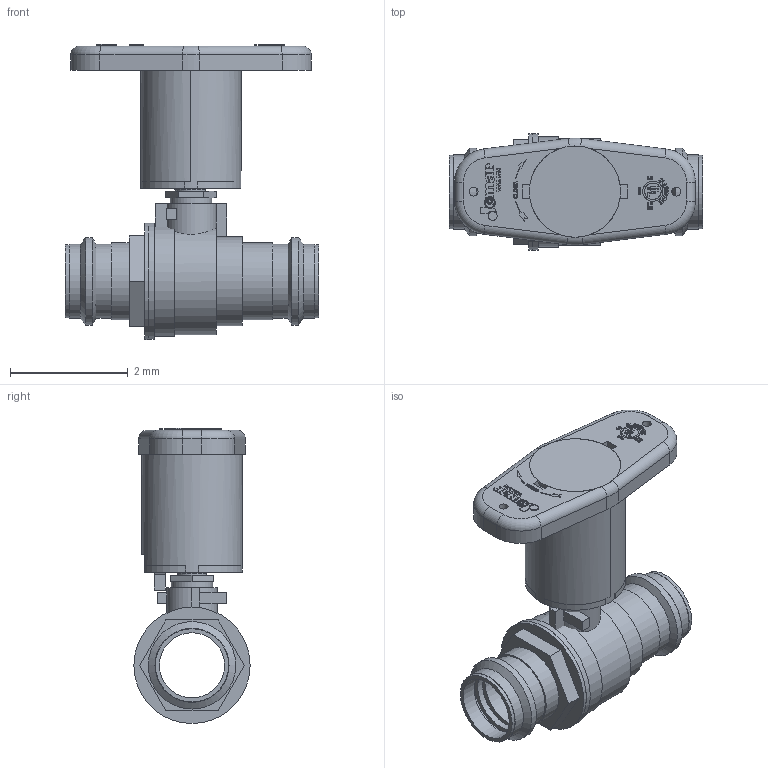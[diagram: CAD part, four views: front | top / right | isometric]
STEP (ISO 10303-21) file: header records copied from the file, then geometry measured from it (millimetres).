
FILE_DESCRIPTION(('Open CASCADE Model'),'2;1');
FILE_NAME('Open CASCADE Shape Model','2021-10-14T08:58:35',('Author'),( 'Open CASCADE'),'Open CASCADE STEP processor 7.3','Open CASCADE 7.3' ,'Unknown');
FILE_SCHEMA(('AUTOMOTIVE_DESIGN { 1 0 10303 214 1 1 1 1 }'));
Length unit declared in the file: millimetre
Products named in the file (163): Open CASCADE STEP translator 7.3 1; Open CASCADE STEP translator 7.3 1.1; Open CASCADE STEP translator 7.3 1.1.1; Open CASCADE STEP translator 7.3 1.1.2; Open CASCADE STEP translator 7.3 1.1.2.1; Open CASCADE STEP translator 7.3 1.1.2.2; Open CASCADE STEP translator 7.3 1.2; Open CASCADE STEP translator 7.3 1.3; Open CASCADE STEP translator 7.3 1.4; Open CASCADE STEP translator 7.3 1.5; Open CASCADE STEP translator 7.3 1.6; Open CASCADE STEP translator 7.3 1.7; Open CASCADE STEP translator 7.3 1.8; Open CASCADE STEP translator 7.3 1.9; Open CASCADE STEP translator 7.3 1.10; Open CASCADE STEP translator 7.3 1.11; Open CASCADE STEP translator 7.3 1.12; Open CASCADE STEP translator 7.3 1.13; Open CASCADE STEP translator 7.3 1.14; Open CASCADE STEP translator 7.3 1.15; Open CASCADE STEP translator 7.3 1.16; Open CASCADE STEP translator 7.3 1.16.1; Open CASCADE STEP translator 7.3 1.16.2; Open CASCADE STEP translator 7.3 1.16.3; Open CASCADE STEP translator 7.3 1.16.4; Open CASCADE STEP translator 7.3 1.16.5; Open CASCADE STEP translator 7.3 1.16.6; Open CASCADE STEP translator 7.3 1.16.7; Open CASCADE STEP translator 7.3 1.16.8; Open CASCADE STEP translator 7.3 1.16.9; Open CASCADE STEP translator 7.3 1.16.10; Open CASCADE STEP translator 7.3 1.16.11; Open CASCADE STEP translator 7.3 1.16.12; Open CASCADE STEP translator 7.3 1.16.13; Open CASCADE STEP translator 7.3 1.16.14; Open CASCADE STEP translator 7.3 1.16.15; Open CASCADE STEP translator 7.3 1.16.16; Open CASCADE STEP translator 7.3 1.16.17; Open CASCADE STEP translator 7.3 1.16.18; Open CASCADE STEP translator 7.3 1.16.19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
Assembly tree (162 placements, depth 4):
  Open CASCADE STEP translator 7.3 1
    Open CASCADE STEP translator 7.3 1.1
      Open CASCADE STEP translator 7.3 1.1.1
      Open CASCADE STEP translator 7.3 1.1.2
        Open CASCADE STEP translator 7.3 1.1.2.1
        Open CASCADE STEP translator 7.3 1.1.2.2
    Open CASCADE STEP translator 7.3 1.2
    Open CASCADE STEP translator 7.3 1.3
    Open CASCADE STEP translator 7.3 1.4
    Open CASCADE STEP translator 7.3 1.5
    Open CASCADE STEP translator 7.3 1.6
    Open CASCADE STEP translator 7.3 1.7
    Open CASCADE STEP translator 7.3 1.8
    Open CASCADE STEP translator 7.3 1.9
    Open CASCADE STEP translator 7.3 1.10
    Open CASCADE STEP translator 7.3 1.11
    Open CASCADE STEP translator 7.3 1.12
    Open CASCADE STEP translator 7.3 1.13
    Open CASCADE STEP translator 7.3 1.14
    Open CASCADE STEP translator 7.3 1.15
    Open CASCADE STEP translator 7.3 1.16
      Open CASCADE STEP translator 7.3 1.16.1
      Open CASCADE STEP translator 7.3 1.16.2
      Open CASCADE STEP translator 7.3 1.16.3
      Open CASCADE STEP translator 7.3 1.16.4
      Open CASCADE STEP translator 7.3 1.16.5
      Open CASCADE STEP translator 7.3 1.16.6
      Open CASCADE STEP translator 7.3 1.16.7
      Open CASCADE STEP translator 7.3 1.16.8
      Open CASCADE STEP translator 7.3 1.16.9
      Open CASCADE STEP translator 7.3 1.16.10
      Open CASCADE STEP translator 7.3 1.16.11
      Open CASCADE STEP translator 7.3 1.16.12
      Open CASCADE STEP translator 7.3 1.16.13
      Open CASCADE STEP translator 7.3 1.16.14
      Open CASCADE STEP translator 7.3 1.16.15
      Open CASCADE STEP translator 7.3 1.16.16
      Open CASCADE STEP translator 7.3 1.16.17
      Open CASCADE STEP translator 7.3 1.16.18
      Open CASCADE STEP translator 7.3 1.16.19
      Open CASCADE STEP translator 7.3 1.16.20
      Open CASCADE STEP translator 7.3 1.16.21
      Open CASCADE STEP translator 7.3 1.16.22
      Open CASCADE STEP translator 7.3 1.16.23
      Open CASCADE STEP translator 7.3 1.16.24
      Open CASCADE STEP translator 7.3 1.16.25
      Open CASCADE STEP translator 7.3 1.16.26
      Open CASCADE STEP translator 7.3 1.16.27
      Open CASCADE STEP translator 7.3 1.16.28
      Open CASCADE STEP translator 7.3 1.16.29
      Open CASCADE STEP translator 7.3 1.16.30
      Open CASCADE STEP translator 7.3 1.16.31
      Open CASCADE STEP translator 7.3 1.16.32
      Open CASCADE STEP translator 7.3 1.16.33
      Open CASCADE STEP translator 7.3 1.16.34
      Open CASCADE STEP translator 7.3 1.16.35
      Open CASCADE STEP translator 7.3 1.16.36
      Open CASCADE STEP translator 7.3 1.16.37
      Open CASCADE STEP translator 7.3 1.16.38
      Open CASCADE STEP translator 7.3 1.16.39
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Bounding box: 4.31 x 1.98 x 5.01 mm (x, y, z)
Volume: 3.2 mm3; surface area: 102.9 mm2
Topology: 45 solids, 159 shells, 2716 faces, 7894 edges, 5354 vertices
Faces by surface type: plane 2567, cylinder 131, torus 6, extrusion 6, cone 6
Full cylindrical faces by diameter (mm): 0.018 x1, 0.021 x1, 0.054 x1, 0.076 x1, 0.151 x3, 0.162 x1, 0.431 x1, 0.495 x1, 0.7 x1, 0.86 x1, 1.105 x5, 1.243 x2, 1.255 x4, 1.257 x4, 1.303 x1, 1.307 x1, 1.346 x1, 1.404 x2, 1.485 x2, 1.497 x1, 1.508 x1, 1.549 x1, 1.81 x1, 1.868 x1, 1.972 x1, 1.975 x1
Entity records: 193159 total; most frequent: CARTESIAN_POINT 33683, DIRECTION 29210, VECTOR 22601, LINE 22595, ORIENTED_EDGE 15430, PCURVE 15430, DEFINITIONAL_REPRESENTATION 15430, EDGE_CURVE 7894
